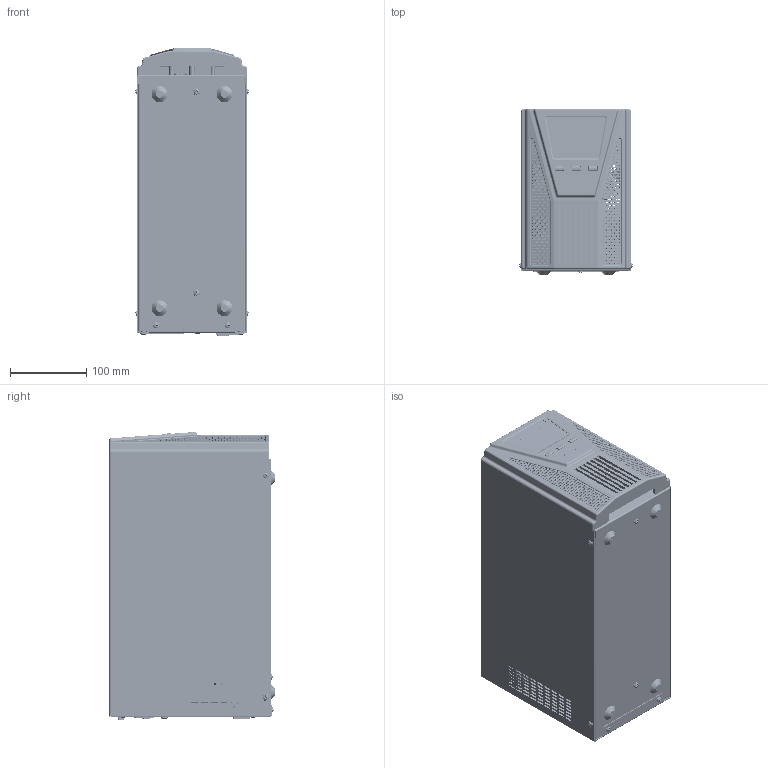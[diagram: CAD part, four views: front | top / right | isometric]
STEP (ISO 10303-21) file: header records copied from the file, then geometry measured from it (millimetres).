
FILE_DESCRIPTION (( 'STEP AP203' ), '1' );
FILE_NAME ('SMALLT1A10H áåç çàùèòíûõ ïàíåëåé.STEP', '2025-04-28T12:01:51', ( '' ), ( '' ), 'SwSTEP 2.0', 'SolidWorks 2022', '' );
FILE_SCHEMA (( 'CONFIG_CONTROL_DESIGN' ));
Products named in the file (1): SMALLT1A10H без защитных панелей
Bounding box: 148.11 x 216 x 376.67 mm (x, y, z)
Surface area: 1093420.6 mm2 (no closed solid volume)
Topology: 0 solids, 77 shells, 7459 faces, 20287 edges, 13106 vertices
Faces by surface type: plane 4495, cylinder 2175, bspline 455, torus 184, cone 76, sphere 74
Entity records: 263037 total; most frequent: CARTESIAN_POINT 74940, ORIENTED_EDGE 40380, DIRECTION 36015, EDGE_CURVE 20230, VECTOR 13385, LINE 13385, VERTEX_POINT 13106, AXIS2_PLACEMENT_3D 11315
